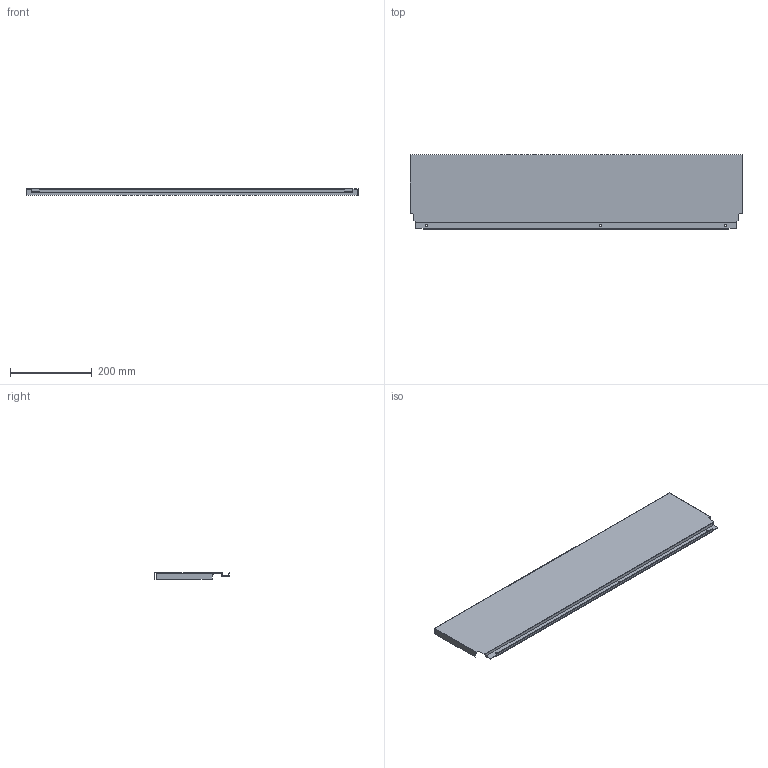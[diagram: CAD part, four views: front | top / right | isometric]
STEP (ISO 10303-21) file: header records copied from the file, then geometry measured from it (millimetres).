
FILE_DESCRIPTION (( 'STEP AP214' ), '1' );
FILE_NAME ('_DWD_XP Stahlrückwand_H182_KAB900_S19.step', '2010-07-08T12:58:11', ( 'grass' ), ( '' ), 'SwSTEP 2.0', 'SolidWorks 2010', '' );
FILE_SCHEMA (( 'AUTOMOTIVE_DESIGN' ));
Length unit declared in the file: millimetre
Products named in the file (1): _DWD_XP Stahlrückwand_H182_KAB900_S19
Bounding box: 811 x 182.49 x 16 mm (x, y, z)
Volume: 152160.4 mm3; surface area: 351882.4 mm2
Topology: 1 solids, 1 shells, 46 faces, 132 edges, 88 vertices
Faces by surface type: plane 40, cylinder 6
Entity records: 1534 total; most frequent: CARTESIAN_POINT 267, ORIENTED_EDGE 264, DIRECTION 238, EDGE_CURVE 132, LINE 120, VECTOR 120, VERTEX_POINT 88, AXIS2_PLACEMENT_3D 59
